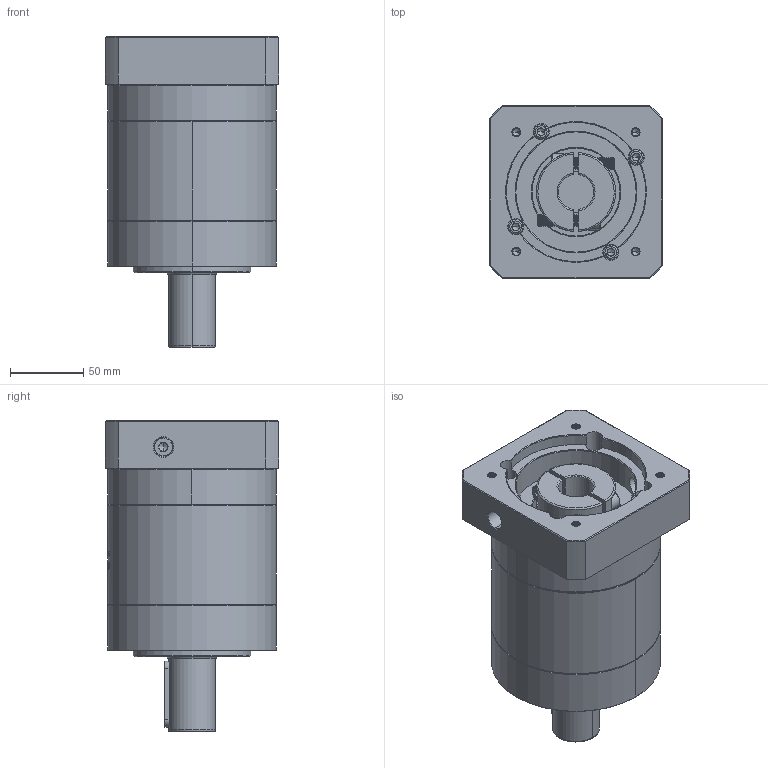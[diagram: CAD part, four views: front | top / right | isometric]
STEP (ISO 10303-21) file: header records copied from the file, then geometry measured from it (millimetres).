
FILE_DESCRIPTION (( 'STEP AP214' ), '1' );
FILE_NAME ('ZE120A-D32-L2-24-95-115-M6.step', '2023-03-09T06:29:15', ( '' ), ( '' ), 'SwSTEP 2.0', 'SolidWorks 2016', '' );
FILE_SCHEMA (( 'AUTOMOTIVE_DESIGN' ));
Length unit declared in the file: millimetre
Products named in the file (1): ZE120A-D32-L2-24-95-115-M6
Bounding box: 118 x 118 x 212 mm (x, y, z)
Volume: 1614378.3 mm3; surface area: 163749.9 mm2
Topology: 6 solids, 6 shells, 2046 faces, 5415 edges, 3462 vertices
Faces by surface type: plane 836, cylinder 519, bspline 353, cone 338
Entity records: 118732 total; most frequent: CARTESIAN_POINT 50118, ORIENTED_EDGE 10754, DIRECTION 8114, EDGE_CURVE 5377, VERTEX_POINT 3462, LINE 2806, VECTOR 2806, AXIS2_PLACEMENT_3D 2654
